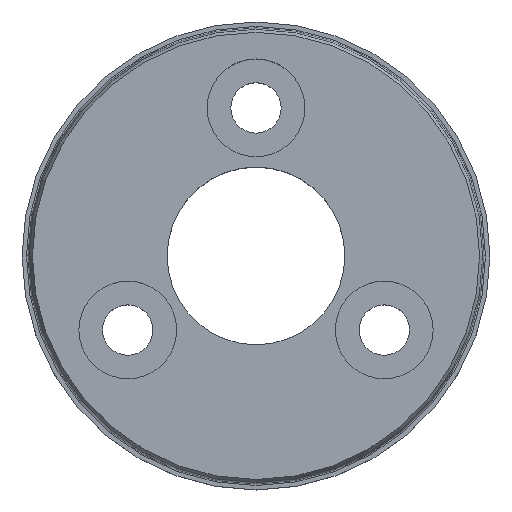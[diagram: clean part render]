
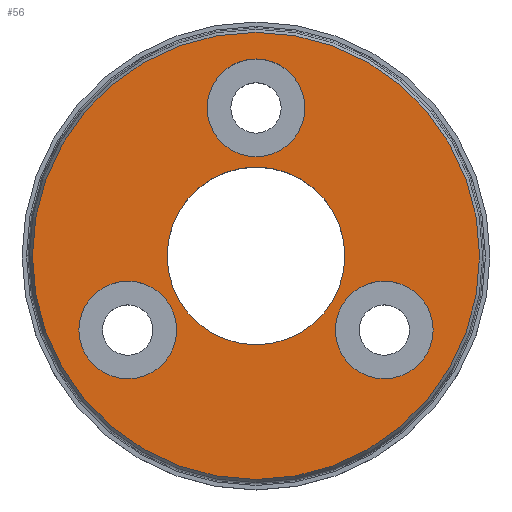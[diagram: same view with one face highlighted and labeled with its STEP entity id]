
A CAD part, top view. The second image highlights one B-rep face of the part: STEP entity #56.
In plain terms, the highlighted planar face has unit normal (0, 0, 1).
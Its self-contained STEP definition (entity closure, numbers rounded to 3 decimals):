
#48=PLANE('',#326);
#56=ADVANCED_FACE('',(#93,#94,#95,#96,#97),#48,.T.);
#93=FACE_BOUND('',#143,.T.);
#94=FACE_BOUND('',#144,.T.);
#95=FACE_BOUND('',#145,.T.);
#96=FACE_BOUND('',#146,.T.);
#97=FACE_BOUND('',#147,.T.);
#143=EDGE_LOOP('',(#193));
#144=EDGE_LOOP('',(#194));
#145=EDGE_LOOP('',(#195));
#146=EDGE_LOOP('',(#196));
#147=EDGE_LOOP('',(#197));
#193=ORIENTED_EDGE('',*,*,#268,.T.);
#194=ORIENTED_EDGE('',*,*,#269,.F.);
#195=ORIENTED_EDGE('',*,*,#270,.T.);
#196=ORIENTED_EDGE('',*,*,#271,.T.);
#197=ORIENTED_EDGE('',*,*,#272,.T.);
#243=VERTEX_POINT('',#473);
#244=VERTEX_POINT('',#475);
#245=VERTEX_POINT('',#477);
#246=VERTEX_POINT('',#479);
#247=VERTEX_POINT('',#481);
#268=EDGE_CURVE('',#243,#243,#293,.T.);
#269=EDGE_CURVE('',#244,#244,#294,.T.);
#270=EDGE_CURVE('',#245,#245,#295,.T.);
#271=EDGE_CURVE('',#246,#246,#296,.T.);
#272=EDGE_CURVE('',#247,#247,#297,.T.);
#293=CIRCLE('',#321,7.55);
#294=CIRCLE('',#322,3.);
#295=CIRCLE('',#323,1.65);
#296=CIRCLE('',#324,1.65);
#297=CIRCLE('',#325,1.65);
#321=AXIS2_PLACEMENT_3D('',#472,#379,#380);
#322=AXIS2_PLACEMENT_3D('',#474,#381,#382);
#323=AXIS2_PLACEMENT_3D('',#476,#383,#384);
#324=AXIS2_PLACEMENT_3D('',#478,#385,#386);
#325=AXIS2_PLACEMENT_3D('',#480,#387,#388);
#326=AXIS2_PLACEMENT_3D('',#482,#389,#390);
#379=DIRECTION('',(0.,0.,1.));
#380=DIRECTION('',(1.,0.,0.));
#381=DIRECTION('',(0.,0.,1.));
#382=DIRECTION('',(1.,0.,0.));
#383=DIRECTION('',(0.,0.,-1.));
#384=DIRECTION('',(-1.,0.,0.));
#385=DIRECTION('',(0.,0.,-1.));
#386=DIRECTION('',(0.5,-0.866,0.));
#387=DIRECTION('',(0.,0.,-1.));
#388=DIRECTION('',(0.5,0.866,0.));
#389=DIRECTION('',(0.,0.,1.));
#390=DIRECTION('',(1.,0.,0.));
#472=CARTESIAN_POINT('',(0.,0.,0.));
#473=CARTESIAN_POINT('',(7.55,0.,0.));
#474=CARTESIAN_POINT('',(0.,0.,0.));
#475=CARTESIAN_POINT('',(3.,0.,0.));
#476=CARTESIAN_POINT('',(0.,5.,0.));
#477=CARTESIAN_POINT('',(-1.65,5.,0.));
#478=CARTESIAN_POINT('',(-4.33,-2.5,0.));
#479=CARTESIAN_POINT('',(-3.505,-3.929,0.));
#480=CARTESIAN_POINT('',(4.33,-2.5,0.));
#481=CARTESIAN_POINT('',(5.155,-1.071,0.));
#482=CARTESIAN_POINT('',(0.,0.,0.));
